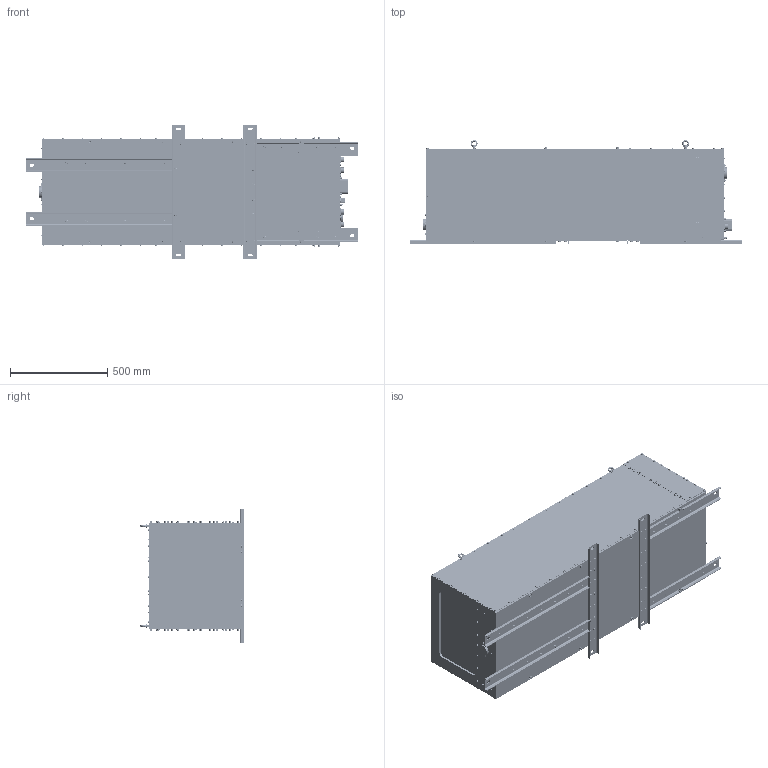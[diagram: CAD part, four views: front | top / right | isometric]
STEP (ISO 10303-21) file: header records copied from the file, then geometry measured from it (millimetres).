
FILE_DESCRIPTION (( 'STEP AP214' ), '1' );
FILE_NAME ('陏刲.563565.034-001 薰甡.STEP', '2026-08-24T13:28:58', ( '' ), ( '' ), 'SwSTEP 2.0', 'SolidWorks 2022', '' );
FILE_SCHEMA (( 'AUTOMOTIVE_DESIGN' ));
Length unit declared in the file: millimetre
Products named in the file (1): РГЛС.563565.034-001 ВИТА
Bounding box: 1710 x 532.99 x 690 mm (x, y, z)
Volume: 392391420.8 mm3; surface area: 11454065 mm2
Topology: 848 solids, 871 shells, 13388 faces, 29465 edges, 17999 vertices
Faces by surface type: plane 5442, cylinder 3923, cone 3288, torus 712, bspline 23
Entity records: 539933 total; most frequent: CARTESIAN_POINT 89191, DIRECTION 63017, ORIENTED_EDGE 58254, EDGE_CURVE 29127, AXIS2_PLACEMENT_3D 25510, VERTEX_POINT 17999, EDGE_LOOP 15294, UNCERTAINTY_MEASURE_WITH_UNIT 14238
